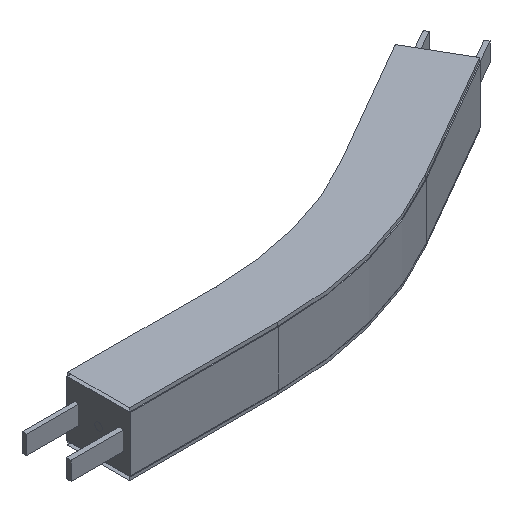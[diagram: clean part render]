
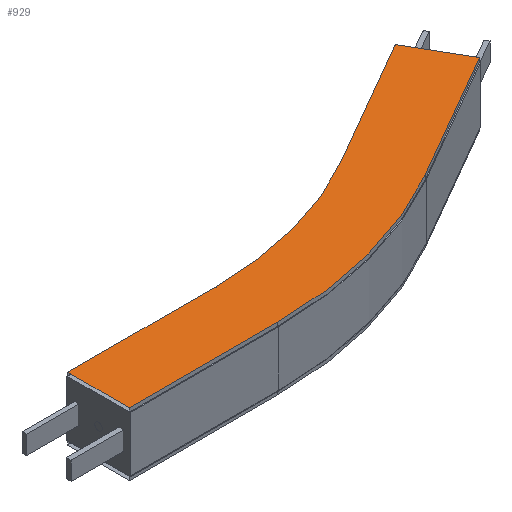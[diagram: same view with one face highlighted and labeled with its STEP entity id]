
A CAD part, isometric view. The second image highlights one B-rep face of the part: STEP entity #929.
In plain terms, the highlighted planar face has unit normal (0, 0, -1).
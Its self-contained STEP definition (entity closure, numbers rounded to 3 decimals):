
#61=CIRCLE('',#1011,458.5);
#62=CIRCLE('',#1013,541.5);
#119=FACE_OUTER_BOUND('',#171,.T.);
#171=EDGE_LOOP('',(#794,#795,#796,#797,#798,#799,#800,#801));
#253=LINE('',#1463,#363);
#255=LINE('',#1469,#365);
#262=LINE('',#1490,#372);
#267=LINE('',#1499,#377);
#268=LINE('',#1501,#378);
#269=LINE('',#1502,#379);
#363=VECTOR('',#1198,10.);
#365=VECTOR('',#1202,10.);
#372=VECTOR('',#1223,10.);
#377=VECTOR('',#1232,10.);
#378=VECTOR('',#1235,10.);
#379=VECTOR('',#1236,10.);
#453=VERTEX_POINT('',#1457);
#455=VERTEX_POINT('',#1461);
#456=VERTEX_POINT('',#1465);
#458=VERTEX_POINT('',#1468);
#461=VERTEX_POINT('',#1475);
#462=VERTEX_POINT('',#1480);
#464=VERTEX_POINT('',#1486);
#467=VERTEX_POINT('',#1497);
#565=EDGE_CURVE('',#453,#455,#253,.T.);
#567=EDGE_CURVE('',#456,#458,#255,.T.);
#572=EDGE_CURVE('',#461,#453,#61,.T.);
#574=EDGE_CURVE('',#462,#456,#62,.T.);
#578=EDGE_CURVE('',#464,#461,#262,.T.);
#583=EDGE_CURVE('',#467,#462,#267,.T.);
#584=EDGE_CURVE('',#467,#464,#268,.T.);
#585=EDGE_CURVE('',#455,#458,#269,.T.);
#794=ORIENTED_EDGE('',*,*,#584,.T.);
#795=ORIENTED_EDGE('',*,*,#578,.T.);
#796=ORIENTED_EDGE('',*,*,#572,.T.);
#797=ORIENTED_EDGE('',*,*,#565,.T.);
#798=ORIENTED_EDGE('',*,*,#585,.T.);
#799=ORIENTED_EDGE('',*,*,#567,.F.);
#800=ORIENTED_EDGE('',*,*,#574,.F.);
#801=ORIENTED_EDGE('',*,*,#583,.F.);
#879=PLANE('',#1018);
#929=ADVANCED_FACE('',(#119),#879,.F.);
#1011=AXIS2_PLACEMENT_3D('',#1478,#1210,#1211);
#1013=AXIS2_PLACEMENT_3D('',#1483,#1215,#1216);
#1018=AXIS2_PLACEMENT_3D('',#1500,#1233,#1234);
#1198=DIRECTION('',(0.866,0.5,0.));
#1202=DIRECTION('',(0.866,0.5,0.));
#1210=DIRECTION('center_axis',(0.,0.,
1.));
#1211=DIRECTION('ref_axis',(0.,-1.,0.));
#1215=DIRECTION('center_axis',(0.,0.,
1.));
#1216=DIRECTION('ref_axis',(0.,-1.,0.));
#1223=DIRECTION('',(1.,0.,0.));
#1232=DIRECTION('',(1.,0.,0.));
#1233=DIRECTION('center_axis',(0.,0.,1.));
#1234=DIRECTION('ref_axis',(0.,-1.,0.));
#1235=DIRECTION('',(0.,1.,0.));
#1236=DIRECTION('',(0.5,-0.866,0.));
#1457=CARTESIAN_POINT('',(429.25,102.927,42.5));
#1461=CARTESIAN_POINT('',(602.455,202.927,42.5));
#1463=CARTESIAN_POINT('',(429.25,102.927,42.5));
#1465=CARTESIAN_POINT('',(470.75,31.047,42.5));
#1468=CARTESIAN_POINT('',(643.955,131.047,42.5));
#1469=CARTESIAN_POINT('',(470.75,31.047,42.5));
#1475=CARTESIAN_POINT('',(200.,41.5,42.5));
#1478=CARTESIAN_POINT('Origin',(200.,500.,42.5));
#1480=CARTESIAN_POINT('',(200.,-41.5,42.5));
#1483=CARTESIAN_POINT('Origin',(200.,500.,42.5));
#1486=CARTESIAN_POINT('',(0.,41.5,42.5));
#1490=CARTESIAN_POINT('',(0.,41.5,42.5));
#1497=CARTESIAN_POINT('',(0.,-41.5,42.5));
#1499=CARTESIAN_POINT('',(0.,-41.5,42.5));
#1500=CARTESIAN_POINT('Origin',(0.,41.5,42.5));
#1501=CARTESIAN_POINT('',(0.,-41.5,42.5));
#1502=CARTESIAN_POINT('',(643.955,131.047,42.5));
